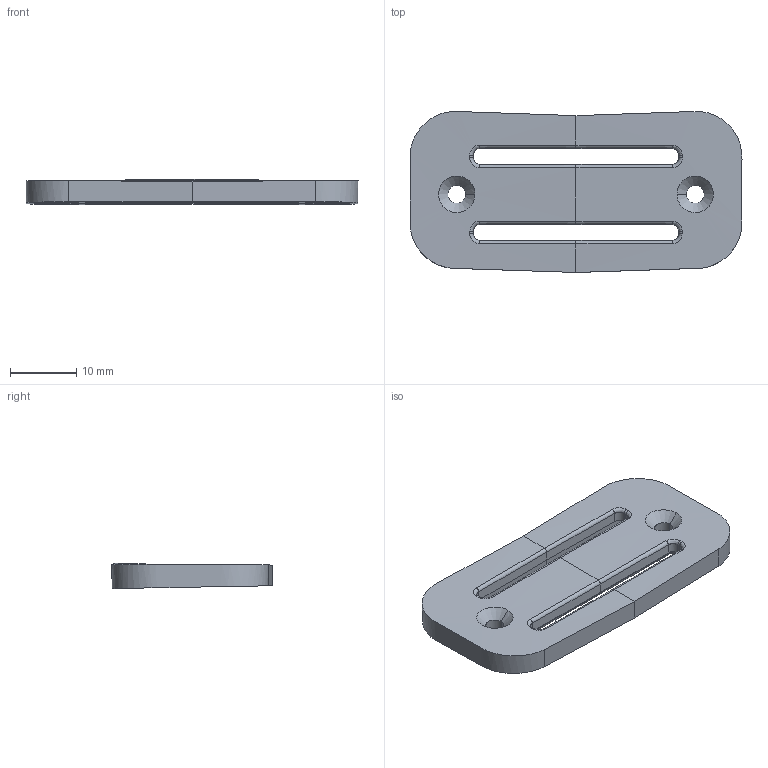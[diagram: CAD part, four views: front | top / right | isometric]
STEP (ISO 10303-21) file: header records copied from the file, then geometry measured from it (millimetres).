
FILE_DESCRIPTION (( 'STEP AP203' ), '1' );
FILE_NAME ('2002-0003444_Strap_Anchor_Point_01.step', '2024-04-26T09:25:40', ( '' ), ( '' ), 'SwSTEP 2.0', 'SolidWorks 2021', '' );
FILE_SCHEMA (( 'CONFIG_CONTROL_DESIGN' ));
Length unit declared in the file: millimetre
Products named in the file (1): 2002-0003444_Strap_Anchor_Point_01
Bounding box: 50.12 x 24.3 x 3.79 mm (x, y, z)
Volume: 2605.1 mm3; surface area: 3394.9 mm2
Topology: 1 solids, 1 shells, 299 faces, 767 edges, 496 vertices
Faces by surface type: bspline 242, plane 53, cone 4
Entity records: 17327 total; most frequent: CARTESIAN_POINT 11988, ORIENTED_EDGE 1534, EDGE_CURVE 767, B_SPLINE_CURVE_WITH_KNOTS 636, VERTEX_POINT 496, EDGE_LOOP 333, FACE_OUTER_BOUND 299, ADVANCED_FACE 299
